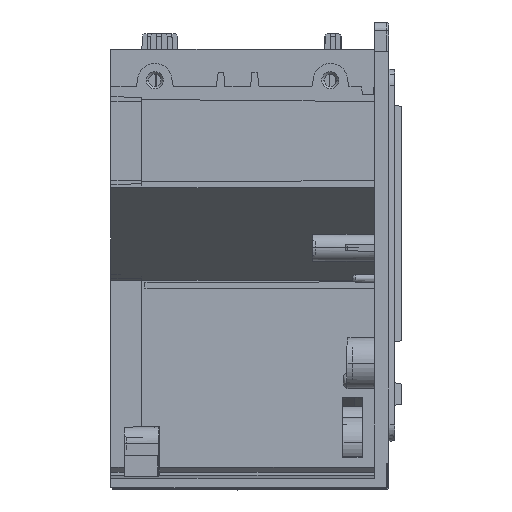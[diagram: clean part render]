
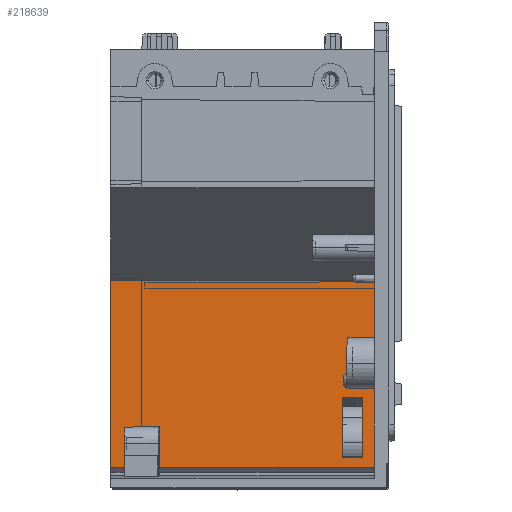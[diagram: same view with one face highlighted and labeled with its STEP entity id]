
A CAD part, left-side view. The second image highlights one B-rep face of the part: STEP entity #218639.
In plain terms, the highlighted planar face has unit normal (-1, 0, 0).
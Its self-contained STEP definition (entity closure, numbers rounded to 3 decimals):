
#55467=DIRECTION('',(0.,-1.,0.));
#55468=VECTOR('',#55467,4.);
#55469=CARTESIAN_POINT('',(-355.,-20.5,-41.26));
#55470=LINE('',#55469,#55468);
#55471=DIRECTION('',(0.,0.,1.));
#55472=VECTOR('',#55471,12.3);
#55473=CARTESIAN_POINT('',(-355.,-24.5,-41.26));
#55474=LINE('',#55473,#55472);
#55475=DIRECTION('',(0.,1.,0.));
#55476=VECTOR('',#55475,4.);
#55477=CARTESIAN_POINT('',(-355.,-24.5,-28.96));
#55478=LINE('',#55477,#55476);
#55479=DIRECTION('',(0.,0.,-1.));
#55480=VECTOR('',#55479,12.3);
#55481=CARTESIAN_POINT('',(-355.,-20.5,-28.96));
#55482=LINE('',#55481,#55480);
#55483=DIRECTION('',(0.,1.,0.));
#55484=VECTOR('',#55483,44.);
#55485=CARTESIAN_POINT('',(-355.,-27.,-43.326));
#55486=LINE('',#55485,#55484);
#55487=CARTESIAN_POINT('',(-355.001,17.,
-43.324));
#55488=CARTESIAN_POINT('',(-355.001,17.,
-42.394));
#55489=CARTESIAN_POINT('',(-355.,17.,
-40.535));
#55490=CARTESIAN_POINT('',(-354.999,17.,
-37.743));
#55491=CARTESIAN_POINT('',(-355.003,17.,
-35.882));
#55492=CARTESIAN_POINT('',(-355.003,17.,
-34.951));
#55494=DIRECTION('',(0.003,1.,-0.017));
#55495=VECTOR('',#55494,1.);
#55496=CARTESIAN_POINT('',(-355.003,17.,
-34.951));
#55497=LINE('',#55496,#55495);
#55498=DIRECTION('',(0.,0.,-1.));
#55499=VECTOR('',#55498,8.357);
#55500=CARTESIAN_POINT('',(-355.,18.,-34.969));
#55501=LINE('',#55500,#55499);
#55502=DIRECTION('',(0.,-1.,0.));
#55503=VECTOR('',#55502,9.);
#55504=CARTESIAN_POINT('',(-355.,27.,-43.326));
#55505=LINE('',#55504,#55503);
#55506=DIRECTION('',(0.,0.,1.));
#55507=VECTOR('',#55506,38.326);
#55508=CARTESIAN_POINT('',(-355.,27.,-43.326));
#55509=LINE('',#55508,#55507);
#55510=DIRECTION('',(0.,1.,0.));
#55511=VECTOR('',#55510,54.);
#55512=CARTESIAN_POINT('',(-355.,-27.,-5.));
#55513=LINE('',#55512,#55511);
#55514=DIRECTION('',(0.,0.,-1.));
#55515=VECTOR('',#55514,38.326);
#55516=CARTESIAN_POINT('',(-355.,-27.,-5.));
#55517=LINE('',#55516,#55515);
#101773=CARTESIAN_POINT('',(-355.,27.,-5.));
#101774=VERTEX_POINT('',#101773);
#101860=CARTESIAN_POINT('',(-355.,-27.,-5.));
#101862=VERTEX_POINT('',#101860);
#103834=CARTESIAN_POINT('',(-355.,-24.5,-28.96));
#103835=CARTESIAN_POINT('',(-355.,-20.5,-28.96));
#103836=VERTEX_POINT('',#103834);
#103837=VERTEX_POINT('',#103835);
#104879=CARTESIAN_POINT('',(-355.003,17.,
-34.951));
#104880=CARTESIAN_POINT('',(-355.,18.,-34.969));
#104881=VERTEX_POINT('',#104879);
#104882=VERTEX_POINT('',#104880);
#104965=CARTESIAN_POINT('',(-355.,-20.5,-41.26));
#104966=CARTESIAN_POINT('',(-355.,-24.5,-41.26));
#104967=VERTEX_POINT('',#104965);
#104968=VERTEX_POINT('',#104966);
#106145=CARTESIAN_POINT('',(-355.,18.,-43.326));
#106147=VERTEX_POINT('',#106145);
#106150=CARTESIAN_POINT('',(-355.,27.,-43.326));
#106151=VERTEX_POINT('',#106150);
#106164=CARTESIAN_POINT('',(-355.,-27.,-43.326));
#106165=VERTEX_POINT('',#106164);
#106172=CARTESIAN_POINT('',(-355.001,17.,
-43.324));
#106174=VERTEX_POINT('',#106172);
#218609=CARTESIAN_POINT('',(-355.,-32.5,-5.));
#218610=DIRECTION('',(1.,0.,0.));
#218611=DIRECTION('',(0.,0.,-1.));
#218612=AXIS2_PLACEMENT_3D('',#218609,#218610,#218611);
#218613=PLANE('',#218612);
#218615=ORIENTED_EDGE('',*,*,#218614,.T.);
#218617=ORIENTED_EDGE('',*,*,#218616,.T.);
#218619=ORIENTED_EDGE('',*,*,#218618,.T.);
#218621=ORIENTED_EDGE('',*,*,#218620,.T.);
#218623=ORIENTED_EDGE('',*,*,#218622,.F.);
#218624=ORIENTED_EDGE('',*,*,#195017,.T.);
#218626=ORIENTED_EDGE('',*,*,#218625,.F.);
#218627=ORIENTED_EDGE('',*,*,#214520,.T.);
#218628=EDGE_LOOP('',(#218615,#218617,#218619,#218621,#218623,#218624,#218626,
#218627));
#218629=FACE_OUTER_BOUND('',#218628,.F.);
#218630=ORIENTED_EDGE('',*,*,#218599,.T.);
#218632=ORIENTED_EDGE('',*,*,#218631,.T.);
#218634=ORIENTED_EDGE('',*,*,#218633,.T.);
#218636=ORIENTED_EDGE('',*,*,#218635,.T.);
#218637=EDGE_LOOP('',(#218630,#218632,#218634,#218636));
#218638=FACE_BOUND('',#218637,.F.);
#218639=ADVANCED_FACE('',(#218629,#218638),#218613,.F.);
#55493=B_SPLINE_CURVE_WITH_KNOTS('',3,(#55487,#55488,#55489,#55490,#55491,
#55492),.UNSPECIFIED.,.F.,.F.,(4,1,1,4),(0.,0.333,
0.667,1.),.UNSPECIFIED.);
#195017=EDGE_CURVE('',#106151,#101774,#55509,.T.);
#214520=EDGE_CURVE('',#101862,#106165,#55517,.T.);
#218599=EDGE_CURVE('',#104967,#104968,#55470,.T.);
#218614=EDGE_CURVE('',#106165,#106174,#55486,.T.);
#218616=EDGE_CURVE('',#106174,#104881,#55493,.T.);
#218618=EDGE_CURVE('',#104881,#104882,#55497,.T.);
#218620=EDGE_CURVE('',#104882,#106147,#55501,.T.);
#218622=EDGE_CURVE('',#106151,#106147,#55505,.T.);
#218625=EDGE_CURVE('',#101862,#101774,#55513,.T.);
#218631=EDGE_CURVE('',#104968,#103836,#55474,.T.);
#218633=EDGE_CURVE('',#103836,#103837,#55478,.T.);
#218635=EDGE_CURVE('',#103837,#104967,#55482,.T.);
